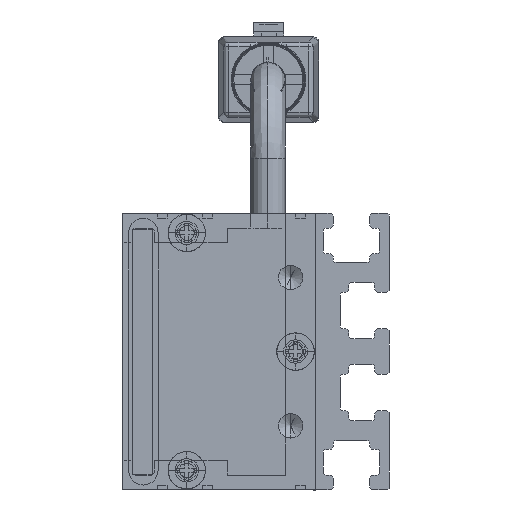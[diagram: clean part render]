
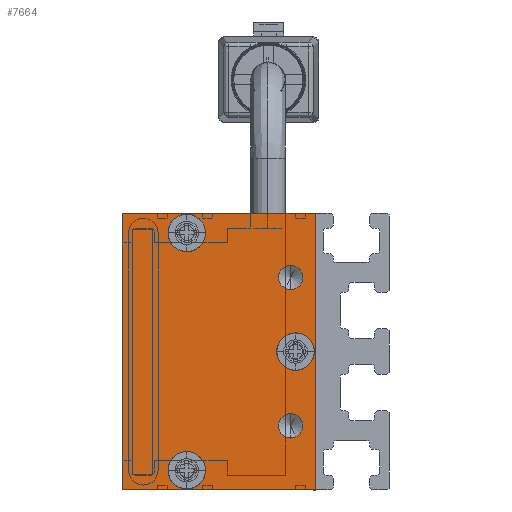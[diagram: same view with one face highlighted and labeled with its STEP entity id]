
A CAD part, left-side view. The second image highlights one B-rep face of the part: STEP entity #7664.
In plain terms, the highlighted planar face has unit normal (-1, 0, 0) as drawn and (0, 0, -1) by its records, which use the part's own axes.
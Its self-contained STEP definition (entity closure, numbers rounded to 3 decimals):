
#170 = EDGE_CURVE ( 'NONE', #8459, #4974, #1683, .T. ) ;
#192 = CIRCLE ( 'NONE', #11753, 1.9 ) ;
#196 = AXIS2_PLACEMENT_3D ( 'NONE', #635, #5914, #1614 ) ;
#407 = CARTESIAN_POINT ( 'NONE',  ( 6.25, 2.5, -2.5 ) ) ;
#445 = LINE ( 'NONE', #13434, #5291 ) ;
#503 = DIRECTION ( 'NONE',  ( -1., 0., 0. ) ) ;
#635 = CARTESIAN_POINT ( 'NONE',  ( -7.5, 2.5, -2.5 ) ) ;
#757 = DIRECTION ( 'NONE',  ( 0., 0., -1. ) ) ;
#794 = DIRECTION ( 'NONE',  ( 0., 0., -1. ) ) ;
#862 = DIRECTION ( 'NONE',  ( 0., 0., -1. ) ) ;
#907 = ORIENTED_EDGE ( 'NONE', *, *, #2490, .F. ) ;
#934 = DIRECTION ( 'NONE',  ( 0., 0., -1. ) ) ;
#969 = EDGE_LOOP ( 'NONE', ( #3597, #12975, #5147, #8109 ) ) ;
#979 = CARTESIAN_POINT ( 'NONE',  ( -8.75, 2.5, -2.5 ) ) ;
#1112 = ORIENTED_EDGE ( 'NONE', *, *, #2238, .F. ) ;
#1140 = VERTEX_POINT ( 'NONE', #5655 ) ;
#1410 = DIRECTION ( 'NONE',  ( 0., 0., -1. ) ) ;
#1491 = DIRECTION ( 'NONE',  ( -1., 0., 0. ) ) ;
#1583 = ORIENTED_EDGE ( 'NONE', *, *, #14029, .F. ) ;
#1614 = DIRECTION ( 'NONE',  ( -1., 0., 0. ) ) ;
#1648 = EDGE_CURVE ( 'NONE', #8224, #1747, #6950, .T. ) ;
#1683 = CIRCLE ( 'NONE', #11886, 1.25 ) ;
#1747 = VERTEX_POINT ( 'NONE', #13615 ) ;
#1952 = AXIS2_PLACEMENT_3D ( 'NONE', #11594, #6197, #2997 ) ;
#2039 = ORIENTED_EDGE ( 'NONE', *, *, #9564, .F. ) ;
#2198 = CARTESIAN_POINT ( 'NONE',  ( 10.1, 13., -2.5 ) ) ;
#2210 = DIRECTION ( 'NONE',  ( 0., 0., -1. ) ) ;
#2238 = EDGE_CURVE ( 'NONE', #4974, #8459, #8557, .T. ) ;
#2408 = AXIS2_PLACEMENT_3D ( 'NONE', #7142, #934, #3153 ) ;
#2456 = CIRCLE ( 'NONE', #10420, 1.9 ) ;
#2490 = EDGE_CURVE ( 'NONE', #7500, #12384, #8337, .T. ) ;
#2584 = EDGE_LOOP ( 'NONE', ( #1112, #10207 ) ) ;
#2635 = CIRCLE ( 'NONE', #1952, 1.9 ) ;
#2678 = CIRCLE ( 'NONE', #196, 1.25 ) ;
#2731 = LINE ( 'NONE', #2875, #10862 ) ;
#2875 = CARTESIAN_POINT ( 'NONE',  ( -14., 0., -2.5 ) ) ;
#2997 = DIRECTION ( 'NONE',  ( -1., 0., 0. ) ) ;
#3005 = CARTESIAN_POINT ( 'NONE',  ( -12., 13., -2.5 ) ) ;
#3069 = FACE_BOUND ( 'NONE', #4961, .T. ) ;
#3153 = DIRECTION ( 'NONE',  ( -1., 0., 0. ) ) ;
#3230 = VERTEX_POINT ( 'NONE', #979 ) ;
#3466 = DIRECTION ( 'NONE',  ( 0., 1., 0. ) ) ;
#3489 = DIRECTION ( 'NONE',  ( -1., 0., 0. ) ) ;
#3508 = EDGE_CURVE ( 'NONE', #1747, #10618, #445, .T. ) ;
#3597 = ORIENTED_EDGE ( 'NONE', *, *, #1648, .F. ) ;
#4067 = EDGE_LOOP ( 'NONE', ( #9281, #10111 ) ) ;
#4278 = CARTESIAN_POINT ( 'NONE',  ( 0., 2., -2.5 ) ) ;
#4345 = PLANE ( 'NONE',  #6252 ) ;
#4736 = CARTESIAN_POINT ( 'NONE',  ( -6.25, 2.5, -2.5 ) ) ;
#4764 = DIRECTION ( 'NONE',  ( -1., 0., 0. ) ) ;
#4816 = CARTESIAN_POINT ( 'NONE',  ( 14., 19.5, -2.5 ) ) ;
#4961 = EDGE_LOOP ( 'NONE', ( #1583, #7360 ) ) ;
#4974 = VERTEX_POINT ( 'NONE', #407 ) ;
#5008 = DIRECTION ( 'NONE',  ( 0., 0., -1. ) ) ;
#5057 = AXIS2_PLACEMENT_3D ( 'NONE', #4278, #1410, #3489 ) ;
#5147 = ORIENTED_EDGE ( 'NONE', *, *, #13497, .F. ) ;
#5291 = VECTOR ( 'NONE', #503, 1000. ) ;
#5335 = EDGE_CURVE ( 'NONE', #5564, #8224, #8605, .T. ) ;
#5344 = DIRECTION ( 'NONE',  ( -1., 0., 0. ) ) ;
#5409 = CIRCLE ( 'NONE', #12428, 1.25 ) ;
#5564 = VERTEX_POINT ( 'NONE', #9803 ) ;
#5653 = EDGE_CURVE ( 'NONE', #3230, #5927, #2678, .T. ) ;
#5655 = CARTESIAN_POINT ( 'NONE',  ( -10.1, 13., -2.5 ) ) ;
#5914 = DIRECTION ( 'NONE',  ( 0., 0., -1. ) ) ;
#5927 = VERTEX_POINT ( 'NONE', #4736 ) ;
#6068 = CARTESIAN_POINT ( 'NONE',  ( 13.9, 13., -2.5 ) ) ;
#6077 = EDGE_LOOP ( 'NONE', ( #7561, #2039 ) ) ;
#6197 = DIRECTION ( 'NONE',  ( 0., 0., -1. ) ) ;
#6252 = AXIS2_PLACEMENT_3D ( 'NONE', #8538, #862, #10735 ) ;
#6346 = FACE_BOUND ( 'NONE', #2584, .T. ) ;
#6486 = EDGE_CURVE ( 'NONE', #12384, #7500, #2635, .T. ) ;
#6571 = DIRECTION ( 'NONE',  ( -1., 0., 0. ) ) ;
#6950 = LINE ( 'NONE', #4816, #12836 ) ;
#7142 = CARTESIAN_POINT ( 'NONE',  ( 7.5, 2.5, -2.5 ) ) ;
#7342 = CARTESIAN_POINT ( 'NONE',  ( 1.9, 2., -2.5 ) ) ;
#7344 = FACE_BOUND ( 'NONE', #4067, .T. ) ;
#7360 = ORIENTED_EDGE ( 'NONE', *, *, #13622, .F. ) ;
#7416 = FACE_BOUND ( 'NONE', #6077, .T. ) ;
#7457 = VECTOR ( 'NONE', #13711, 1000. ) ;
#7479 = CARTESIAN_POINT ( 'NONE',  ( 8.75, 2.5, -2.5 ) ) ;
#7500 = VERTEX_POINT ( 'NONE', #6068 ) ;
#7561 = ORIENTED_EDGE ( 'NONE', *, *, #12235, .F. ) ;
#7664 = ADVANCED_FACE ( 'NONE', ( #8406, #7416, #3069, #6346, #7344, #8672 ), #4345, .T. ) ;
#7828 = CIRCLE ( 'NONE', #8051, 1.9 ) ;
#8051 = AXIS2_PLACEMENT_3D ( 'NONE', #13858, #10611, #5344 ) ;
#8109 = ORIENTED_EDGE ( 'NONE', *, *, #3508, .F. ) ;
#8172 = DIRECTION ( 'NONE',  ( 0., 0., -1. ) ) ;
#8224 = VERTEX_POINT ( 'NONE', #11111 ) ;
#8337 = CIRCLE ( 'NONE', #10162, 1.9 ) ;
#8406 = FACE_BOUND ( 'NONE', #9992, .T. ) ;
#8416 = CARTESIAN_POINT ( 'NONE',  ( 7.5, 2.5, -2.5 ) ) ;
#8459 = VERTEX_POINT ( 'NONE', #7479 ) ;
#8538 = CARTESIAN_POINT ( 'NONE',  ( 0., 0., -2.5 ) ) ;
#8543 = DIRECTION ( 'NONE',  ( -1., 0., 0. ) ) ;
#8557 = CIRCLE ( 'NONE', #2408, 1.25 ) ;
#8605 = LINE ( 'NONE', #9390, #7457 ) ;
#8672 = FACE_OUTER_BOUND ( 'NONE', #969, .T. ) ;
#8716 = CARTESIAN_POINT ( 'NONE',  ( -13.9, 13., -2.5 ) ) ;
#9281 = ORIENTED_EDGE ( 'NONE', *, *, #5653, .F. ) ;
#9342 = DIRECTION ( 'NONE',  ( -1., 0., 0. ) ) ;
#9390 = CARTESIAN_POINT ( 'NONE',  ( 14., 0., -2.5 ) ) ;
#9564 = EDGE_CURVE ( 'NONE', #1140, #11419, #7828, .T. ) ;
#9570 = CARTESIAN_POINT ( 'NONE',  ( -7.5, 2.5, -2.5 ) ) ;
#9803 = CARTESIAN_POINT ( 'NONE',  ( -14., 0., -2.5 ) ) ;
#9852 = CARTESIAN_POINT ( 'NONE',  ( -1.9, 2., -2.5 ) ) ;
#9992 = EDGE_LOOP ( 'NONE', ( #11605, #907 ) ) ;
#10111 = ORIENTED_EDGE ( 'NONE', *, *, #12423, .F. ) ;
#10162 = AXIS2_PLACEMENT_3D ( 'NONE', #13493, #8172, #4764 ) ;
#10207 = ORIENTED_EDGE ( 'NONE', *, *, #170, .F. ) ;
#10418 = DIRECTION ( 'NONE',  ( 0., -1., 0. ) ) ;
#10420 = AXIS2_PLACEMENT_3D ( 'NONE', #3005, #794, #8543 ) ;
#10611 = DIRECTION ( 'NONE',  ( 0., 0., -1. ) ) ;
#10618 = VERTEX_POINT ( 'NONE', #11009 ) ;
#10735 = DIRECTION ( 'NONE',  ( -1., 0., 0. ) ) ;
#10862 = VECTOR ( 'NONE', #10418, 1000. ) ;
#11009 = CARTESIAN_POINT ( 'NONE',  ( -14., 19.5, -2.5 ) ) ;
#11111 = CARTESIAN_POINT ( 'NONE',  ( 14., 0., -2.5 ) ) ;
#11355 = VERTEX_POINT ( 'NONE', #9852 ) ;
#11419 = VERTEX_POINT ( 'NONE', #8716 ) ;
#11594 = CARTESIAN_POINT ( 'NONE',  ( 12., 13., -2.5 ) ) ;
#11605 = ORIENTED_EDGE ( 'NONE', *, *, #6486, .F. ) ;
#11753 = AXIS2_PLACEMENT_3D ( 'NONE', #11811, #2210, #6571 ) ;
#11811 = CARTESIAN_POINT ( 'NONE',  ( 0., 2., -2.5 ) ) ;
#11845 = CIRCLE ( 'NONE', #5057, 1.9 ) ;
#11886 = AXIS2_PLACEMENT_3D ( 'NONE', #8416, #5008, #9342 ) ;
#12235 = EDGE_CURVE ( 'NONE', #11419, #1140, #2456, .T. ) ;
#12384 = VERTEX_POINT ( 'NONE', #2198 ) ;
#12423 = EDGE_CURVE ( 'NONE', #5927, #3230, #5409, .T. ) ;
#12428 = AXIS2_PLACEMENT_3D ( 'NONE', #9570, #757, #1491 ) ;
#12836 = VECTOR ( 'NONE', #3466, 1000. ) ;
#12975 = ORIENTED_EDGE ( 'NONE', *, *, #5335, .F. ) ;
#13434 = CARTESIAN_POINT ( 'NONE',  ( -14., 19.5, -2.5 ) ) ;
#13493 = CARTESIAN_POINT ( 'NONE',  ( 12., 13., -2.5 ) ) ;
#13497 = EDGE_CURVE ( 'NONE', #10618, #5564, #2731, .T. ) ;
#13615 = CARTESIAN_POINT ( 'NONE',  ( 14., 19.5, -2.5 ) ) ;
#13622 = EDGE_CURVE ( 'NONE', #13854, #11355, #192, .T. ) ;
#13711 = DIRECTION ( 'NONE',  ( 1., 0., 0. ) ) ;
#13854 = VERTEX_POINT ( 'NONE', #7342 ) ;
#13858 = CARTESIAN_POINT ( 'NONE',  ( -12., 13., -2.5 ) ) ;
#14029 = EDGE_CURVE ( 'NONE', #11355, #13854, #11845, .T. ) ;
